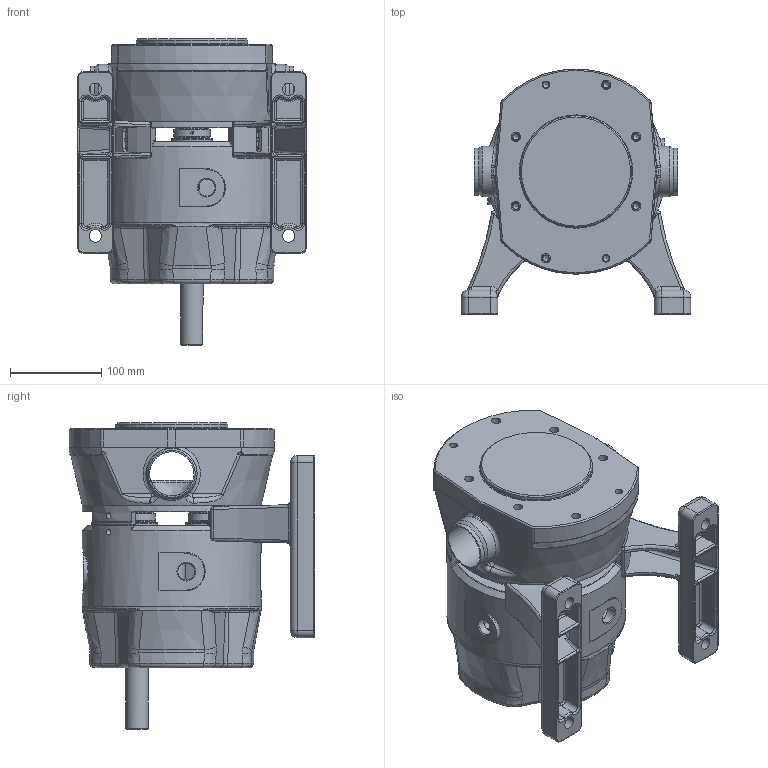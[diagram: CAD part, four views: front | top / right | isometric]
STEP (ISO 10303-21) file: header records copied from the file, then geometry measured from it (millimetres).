
FILE_DESCRIPTION(/* description */ ('DW3_30_10 Final Assembly'),/* implementation_level */ '2;1');
FILE_NAME(/* name */ 'DW+3 commercial use.stp',/* time_stamp */ '2025-10-14T15:05:15+02:00',/* author */ ('WA4RRE'),/* organization */ (''),/* preprocessor_version */ 'ST-DEVELOPER v20',/* originating_system */ 'Autodesk Inventor 2025',/* authorisation */ '');
FILE_SCHEMA (('AUTOMOTIVE_DESIGN { 1 0 10303 214 3 1 1 }'));
Products named in the file (18): DW3_30_10 Final Assembly; H11593; DW3_Main Shaft Assly; H10350; DW3_Aux Shaft Assly; H10351; E10944; L2718300; L2720035; L2719035; L2177300_CIRCLIP; L2720030; L2719030; H11423; F11122-G10909; F11122-G10909_MIR; CVLA1364300; H10902
Assembly tree (24 placements, depth 3):
  DW3_30_10 Final Assembly
    H11593
    DW3_Main Shaft Assly
      H10350
      E10944
      L2718300
      L2720035
      L2719035
      L2177300_CIRCLIP
      L2719030
      L2720030
    DW3_Aux Shaft Assly
      H10351
      E10944
      L2718300
      L2720035
      L2719035
      L2177300_CIRCLIP
      L2720030
      L2719030
    H11423
    F11122-G10909
    F11122-G10909_MIR
    CVLA1364300
    H10902
Bounding box: 252 x 269.5 x 335.85 mm (x, y, z)
Volume: 4110700.4 mm3; surface area: 885946.1 mm2
Topology: 24 solids, 24 shells, 2361 faces, 5893 edges, 3602 vertices
Faces by surface type: cylinder 728, plane 626, bspline 385, cone 363, torus 225, sphere 34
Full cylindrical faces by diameter (mm): 2 x4, 3.1 x2, 4.917 x12, 6.647 x20, 7 x4, 8 x4, 8.376 x2, 8.4 x4, 10 x8, 10.106 x2, 10.2 x6, 11 x4, 13 x2, 15 x11, 18.631 x4, 23.45 x2, 25 x1, 25.05 x1, 26.5 x2, 27.45 x4, 28.376 x2, 28.6 x2, 29.99 x2, 33.376 x2, 35 x5, 35.013 x2, 37 x2, 39.95 x4, 42 x2, 44.95 x2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
Entity records: 81271 total; most frequent: CARTESIAN_POINT 33520, ORIENTED_EDGE 10020, DIRECTION 9367, EDGE_CURVE 5010, AXIS2_PLACEMENT_3D 3812, VERTEX_POINT 3100, EDGE_LOOP 2218, FACE_OUTER_BOUND 2013
